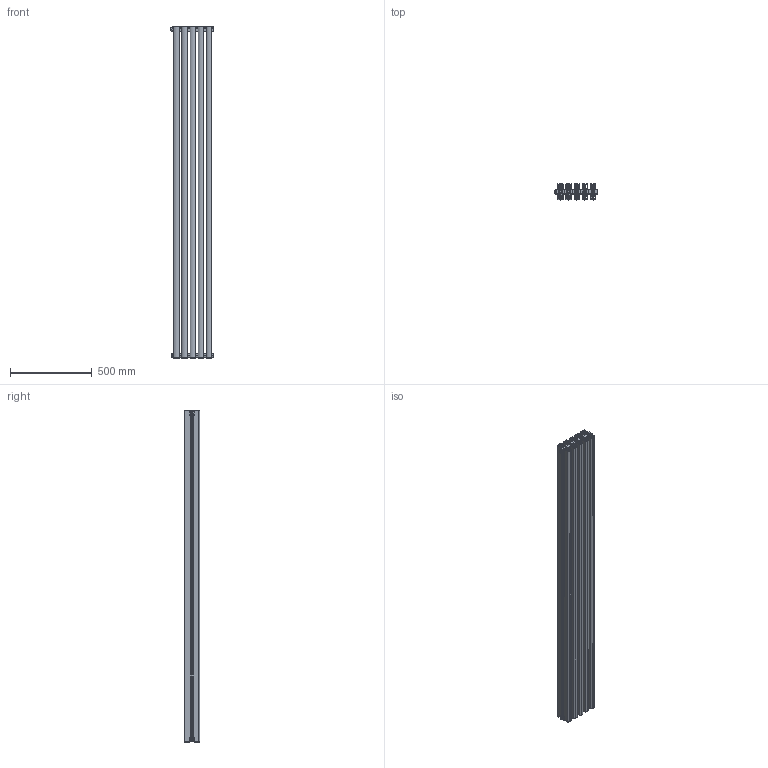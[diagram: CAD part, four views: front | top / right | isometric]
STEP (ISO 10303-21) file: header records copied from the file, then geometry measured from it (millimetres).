
FILE_DESCRIPTION (( 'STEP AP214' ), '1' );
FILE_NAME ('TONALE 2000_5.STEP', '2024-07-22T08:34:18', ( '' ), ( '' ), 'SwSTEP 2.0', 'SolidWorks 2024', '' );
FILE_SCHEMA (( 'AUTOMOTIVE_DESIGN' ));
Length unit declared in the file: millimetre
Products named in the file (12): Art.011; O-RING 2,4 D16,3; Art.041; Assieme vitone con o_ring; ETV600G_foro Ø 4; P3EL00002A_2000; Coperchietto; P3EL00004A_5 elementi; EPC10022D_1000; TONALE 2000_5; P3EL00004A_5 elementi CS
Assembly tree (31 placements, depth 3):
  TONALE 2000_5
    EPC10022D_1000  x5
    Art.011  x3
      Art.011
      Coperchietto
    Art.041
    P3EL00002A_2000  x5
    P3EL00004A_5 elementi CS
    Assieme vitone con o_ring  x10
      ETV600G_foro Ø 4
      O-RING 2,4 D16,3
    P3EL00004A_5 elementi
Bounding box: 266.3 x 95 x 2037 mm (x, y, z)
Volume: 6009325.4 mm3; surface area: 7359614.9 mm2
Topology: 52 solids, 52 shells, 3167 faces, 8682 edges, 5534 vertices
Faces by surface type: plane 1384, cylinder 1273, cone 285, bspline 108, torus 97, sphere 20
Entity records: 30371 total; most frequent: CARTESIAN_POINT 10692, ORIENTED_EDGE 4078, DIRECTION 3997, EDGE_CURVE 2039, AXIS2_PLACEMENT_3D 1394, VERTEX_POINT 1323, LINE 1209, VECTOR 1209
